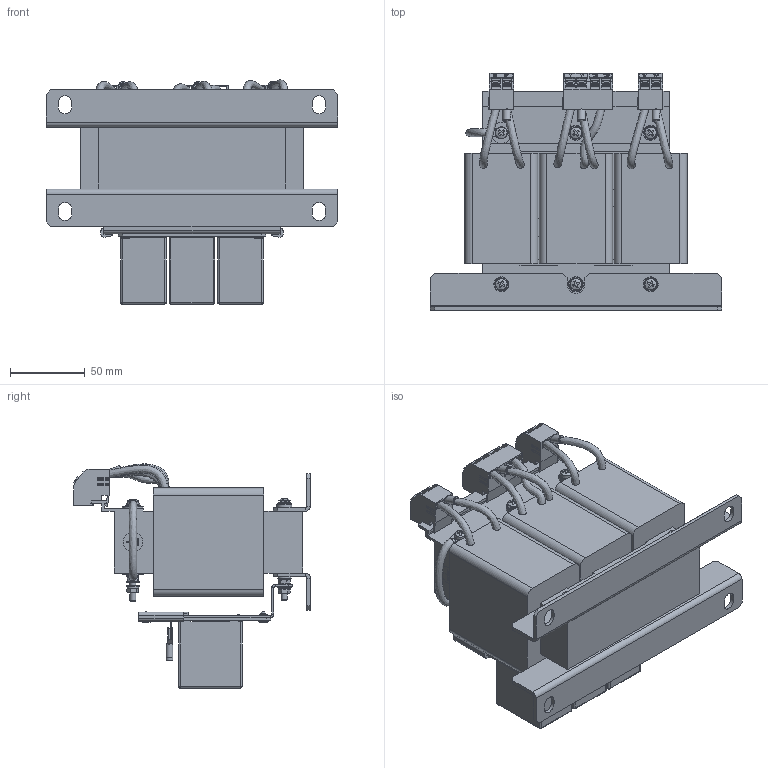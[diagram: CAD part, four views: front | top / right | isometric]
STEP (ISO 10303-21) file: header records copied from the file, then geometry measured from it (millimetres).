
FILE_DESCRIPTION(/* description */ (''),/* implementation_level */ '2;1');
FILE_NAME(/* name */ 'C:\Users\Erika.Jenzer\OneDrive - Schaffner EMV AG\BELLA\STEP FILES BELLA\FN\FN5420-10-88-E0XXT.stp',/* time_stamp */ '2021-07-08T08:07:42+02:00',/* author */ ('erika.jenzer'),/* organization */ (''),/* preprocessor_version */ 'ST-DEVELOPER v18.1',/* originating_system */ 'Autodesk Inventor 2020',/* authorisation */ '');
FILE_SCHEMA (('AUTOMOTIVE_DESIGN { 1 0 10303 214 3 1 1 }'));
Products named in the file (1): FN5420-10-88-E0XXT
Bounding box: 195 x 158.65 x 150.04 mm (x, y, z)
Volume: 1340902.3 mm3; surface area: 227608.5 mm2
Topology: 1 solids, 44 shells, 3193 faces, 8625 edges, 5625 vertices
Faces by surface type: plane 2325, cylinder 617, bspline 99, cone 76, sphere 50, torus 26
Full cylindrical faces by diameter (mm): 0.01 x2, 1 x18, 1.2 x6, 1.8 x3, 2 x7, 2.6 x2, 2.7 x3, 3 x8, 3.2 x10, 3.3 x4, 3.4 x10, 3.5 x3, 3.6 x5, 3.8 x4, 4 x25, 4.1 x7, 4.3 x16, 4.5 x4, 4.8 x3, 5.2 x9, 5.3 x1, 5.4 x3, 5.5 x6, 5.7 x8, 6.5 x4, 8 x2, 9 x14, 10 x5, 13 x1, 14 x2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
Entity records: 109829 total; most frequent: CARTESIAN_POINT 26033, ORIENTED_EDGE 17238, DIRECTION 16804, EDGE_CURVE 8619, LINE 5800, VECTOR 5800, VERTEX_POINT 5625, AXIS2_PLACEMENT_3D 5502
